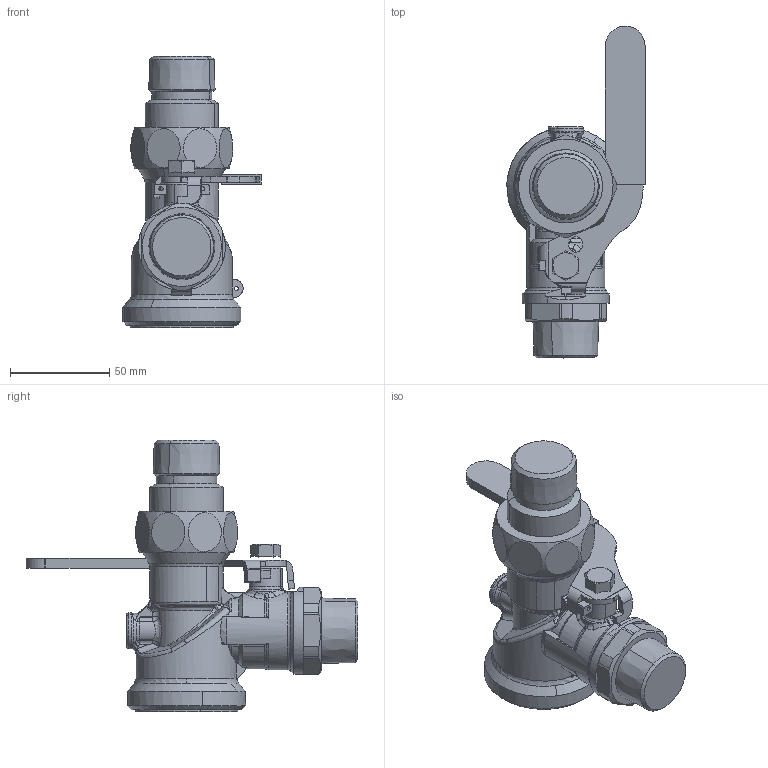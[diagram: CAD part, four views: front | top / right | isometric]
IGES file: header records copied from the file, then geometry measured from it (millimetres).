
Start section: 3D InterOp IGES (Version 25 0 2), Spatial Corp. Copyright (c) 1999-2007.
Global section: file name: pim0003998.igs; native system: Spatial Corp.; preprocessor: 3D InterOp ACIS/IGES; author: CAD-PIM; organization: TransMagic, Inc.; date: 20150923.124907; units: millimetre
Bounding box: 69.74 x 167.52 x 137.29 mm (x, y, z)
Volume: 295716.8 mm3; surface area: 42288 mm2
Topology: 2 solids, 2 shells, 486 faces, 1428 edges, 939 vertices
Faces by surface type: bspline 165, plane 135, cylinder 120, cone 66
